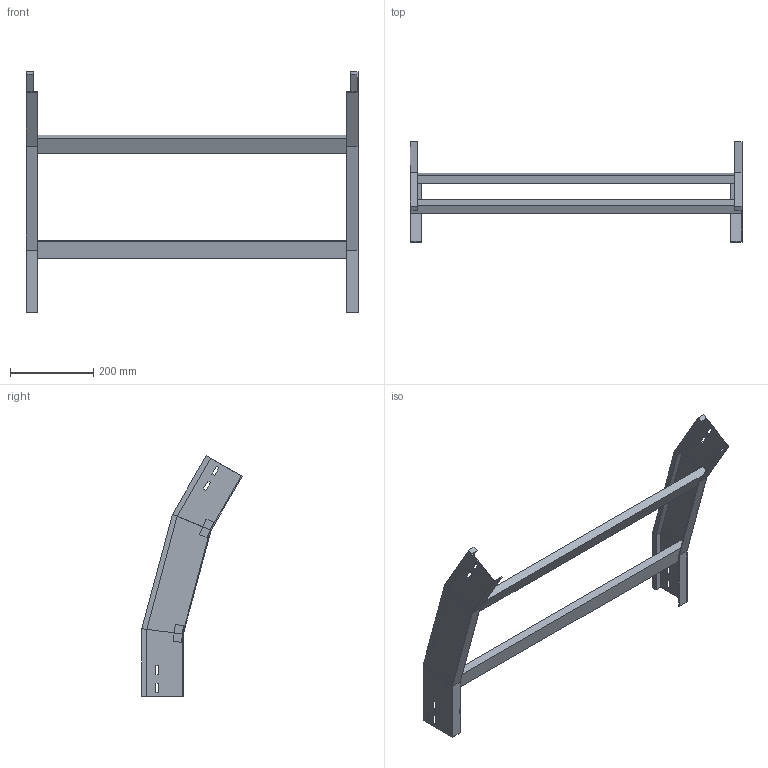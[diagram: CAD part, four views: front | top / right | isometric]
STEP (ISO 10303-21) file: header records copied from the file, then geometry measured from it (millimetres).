
FILE_DESCRIPTION (( 'STEP AP214' ), '1' );
FILE_NAME ('35B5D800.step', '2025-02-21T14:45:57', ( '' ), ( '' ), 'SwSTEP 2.0', 'SolidWorks 2023', '' );
FILE_SCHEMA (( 'AUTOMOTIVE_DESIGN' ));
Length unit declared in the file: millimetre
Products named in the file (3): LONGH.DISCESA_30°_H100_R500; 35B5D800; TRAVERSINO_800
Assembly tree (5 placements, depth 2):
  35B5D800
    LONGH.DISCESA_30°_H100_R500  x2
    TRAVERSINO_800  x3
Bounding box: 800 x 242.03 x 580.08 mm (x, y, z)
Volume: 2455565.4 mm3; surface area: 627751.6 mm2
Topology: 5 solids, 5 shells, 102 faces, 244 edges, 152 vertices
Faces by surface type: plane 102
Entity records: 1480 total; most frequent: CARTESIAN_POINT 244, ORIENTED_EDGE 232, DIRECTION 228, EDGE_CURVE 116, VECTOR 116, LINE 116, VERTEX_POINT 72, EDGE_LOOP 56
